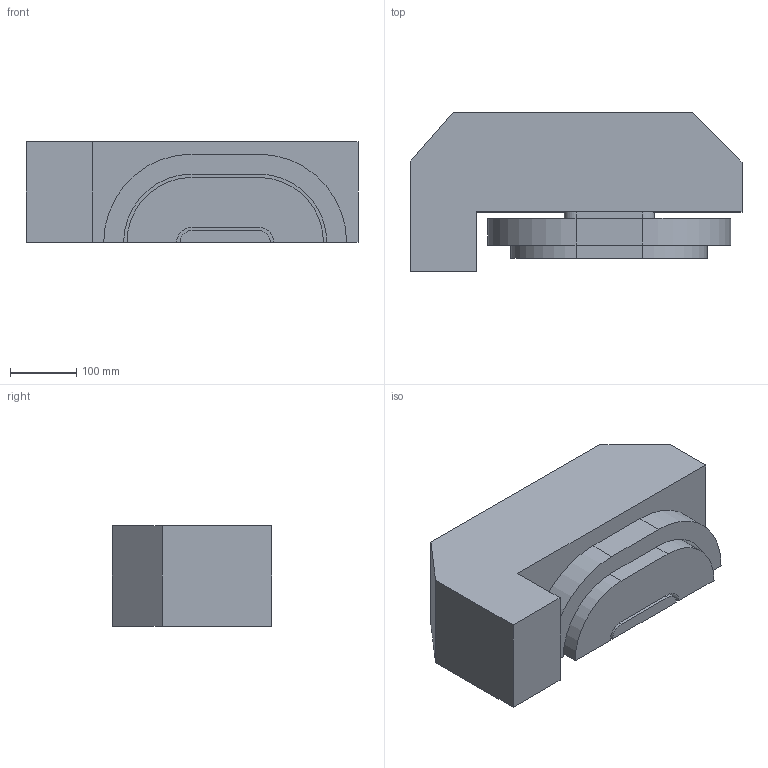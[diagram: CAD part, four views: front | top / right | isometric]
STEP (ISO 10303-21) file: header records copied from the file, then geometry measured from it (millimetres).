
FILE_DESCRIPTION(('STEP AP214'),'1');
FILE_NAME('Superbend_BC_model3_PSI_step.step','2021-06-28T19:29:40',(' '),(' '),'Spatial InterOp 3D',' ',' ');
FILE_SCHEMA(('AUTOMOTIVE_DESIGN { 1 0 10303 214 1 1 1 1 }'));
Length unit declared in the file: millimetre
Products named in the file (1): Pole
Bounding box: 500 x 240 x 152 mm (x, y, z)
Volume: 14001773.8 mm3; surface area: 550300.9 mm2
Topology: 4 solids, 4 shells, 36 faces, 84 edges, 56 vertices
Faces by surface type: plane 26, cylinder 10
Entity records: 1055 total; most frequent: DIRECTION 184, CARTESIAN_POINT 180, ORIENTED_EDGE 168, EDGE_CURVE 84, LINE 64, VECTOR 64, AXIS2_PLACEMENT_3D 60, VERTEX_POINT 56
